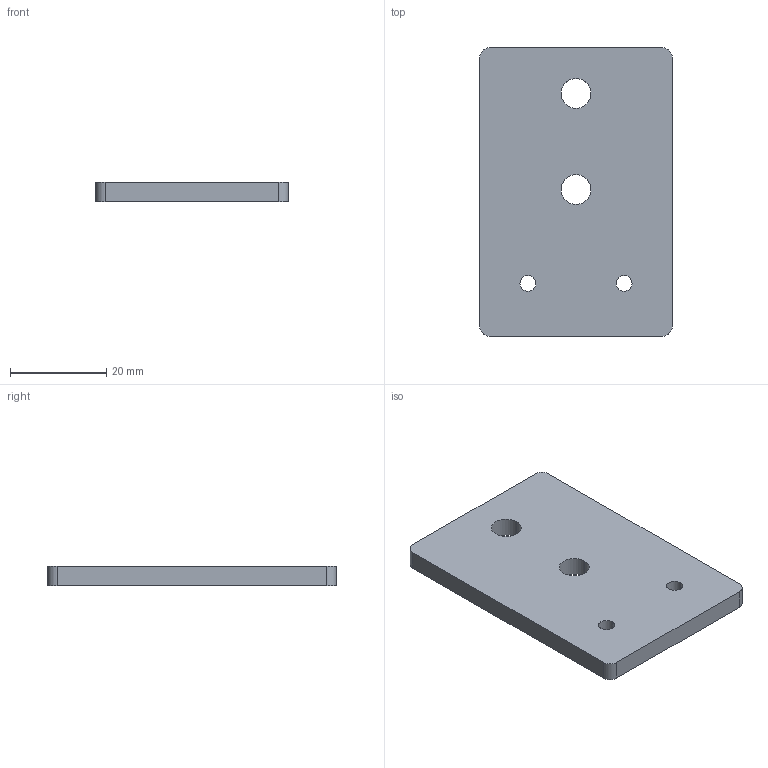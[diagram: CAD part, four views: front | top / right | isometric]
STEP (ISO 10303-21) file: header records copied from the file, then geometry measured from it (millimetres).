
FILE_DESCRIPTION (( 'STEP AP203' ), '1' );
FILE_NAME ('MAM11501 -XA- Plaque tendeur reglage XY V3.STEP', '2024-12-19T15:46:14', ( '' ), ( '' ), 'SwSTEP 2.0', 'SolidWorks 2019', '' );
FILE_SCHEMA (( 'CONFIG_CONTROL_DESIGN' ));
Length unit declared in the file: millimetre
Products named in the file (1): MAM11501 -XA- Plaque tendeur reglage XY V3
Bounding box: 40 x 60 x 4 mm (x, y, z)
Volume: 9276.3 mm3; surface area: 5663.2 mm2
Topology: 1 solids, 1 shells, 18 faces, 48 edges, 32 vertices
Faces by surface type: cylinder 12, plane 6
Entity records: 669 total; most frequent: DIRECTION 110, CARTESIAN_POINT 99, ORIENTED_EDGE 96, EDGE_CURVE 48, AXIS2_PLACEMENT_3D 43, VERTEX_POINT 32, EDGE_LOOP 26, LINE 24
